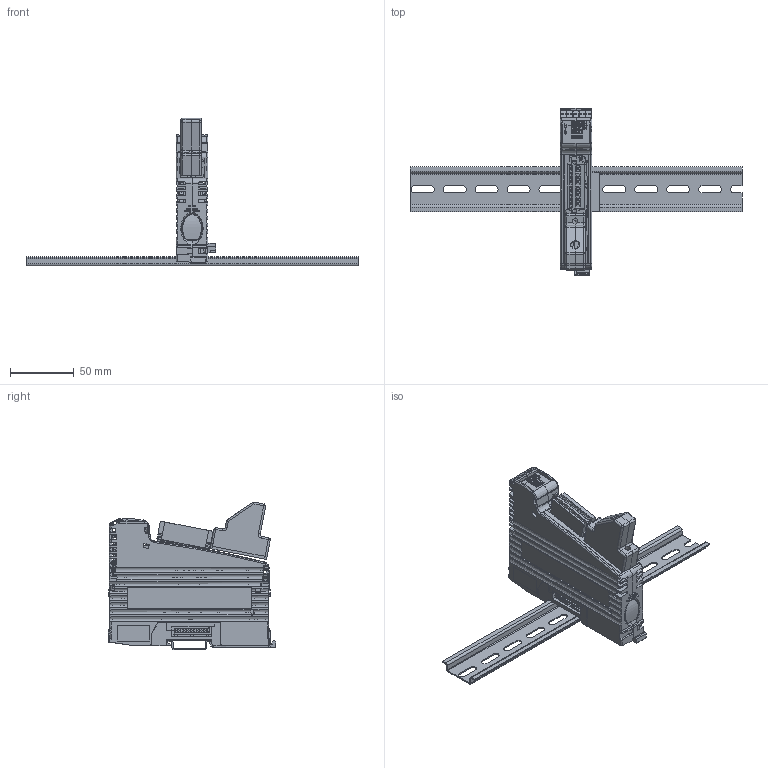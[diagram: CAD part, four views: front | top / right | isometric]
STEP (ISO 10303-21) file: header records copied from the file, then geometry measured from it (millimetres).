
FILE_DESCRIPTION(/* description */ ('FG'),/* implementation_level */ '2;1');
FILE_NAME(/* name */ 'FG_JX3-CNT_001_01',/* time_stamp */ '2016-06-24T15:29:46+02:00',/* author */ ('T. Busch'),/* organization */ ('Jetter AG'),/* preprocessor_version */ 'ST-DEVELOPER v16.7',/* originating_system */ 'DEX',/* authorisation */ $);
FILE_SCHEMA (('AUTOMOTIVE_DESIGN {1 0 10303 214 3 1 1}'));
Products named in the file (22): FG_JX3-CNT_001_01; GE_JX3_CNT_001_01; Sw-LI_JX3_001_01; PCBY_JX3-CNT_001_03; FO_JX3-CNT_001_01; BL_JX3-CNT_028_01; Sw-RE_JX3_001_01; Mk_JX3_001_06; BOY_JX3-BP_A1_001_01; Bo_JX3_001_01; De_JX3_001_00; PCBY_JX3-BP_001_03; PCB_JX3-BP_001_03; BU_10_E_WI_RM2_54; ST_10_E_WI_RM2_54; KT_Din_Schiene_Niedrig; BU_10_E_BLZF_GE_RM3.5; KT_Steckergehäuse_15Pol_ITT; KT_ST_15_GE_LI; KT_ST_15_GE_RI; Bc_Weidmüller_001
Assembly tree (25 placements, depth 4):
  FG_JX3-CNT_001_01
    GE_JX3_CNT_001_01
      Sw-LI_JX3_001_01
      PCBY_JX3-CNT_001_03
        PCBY_JX3-CNT_001_03
      FO_JX3-CNT_001_01
      BL_JX3-CNT_028_01
      Sw-RE_JX3_001_01
      Mk_JX3_001_06
    BOY_JX3-BP_A1_001_01
      Bo_JX3_001_01
      De_JX3_001_00
      PCBY_JX3-BP_001_03
        PCB_JX3-BP_001_03
        BU_10_E_WI_RM2_54
        ST_10_E_WI_RM2_54
    KT_Din_Schiene_Niedrig
    BU_10_E_BLZF_GE_RM3.5
    KT_Steckergehäuse_15Pol_ITT
      KT_ST_15_GE_LI
      KT_ST_15_GE_RI
    Bc_Weidmüller_001  x5
Bounding box: 260 x 131.39 x 115.89 mm (x, y, z)
Volume: 424370.4 mm3; surface area: 137038.5 mm2
Topology: 39 solids, 40 shells, 4619 faces, 12620 edges, 8152 vertices
Faces by surface type: plane 3262, cylinder 761, bspline 242, cone 220, sphere 90, torus 44
Full cylindrical faces by diameter (mm): 0.3 x12, 0.6 x30, 0.75 x10, 0.8 x6, 0.9 x10, 1 x30, 1.45 x2, 1.5 x12, 1.8 x2, 2 x2, 2.1 x2, 2.5 x2, 2.8 x2, 2.9 x4, 3 x2, 3.3 x2
Entity records: 168666 total; most frequent: CARTESIAN_POINT 48538, ORIENTED_EDGE 23082, DIRECTION 20969, EDGE_CURVE 11541, LINE 8751, VECTOR 8751, VERTEX_POINT 7659, AXIS2_PLACEMENT_3D 6109
